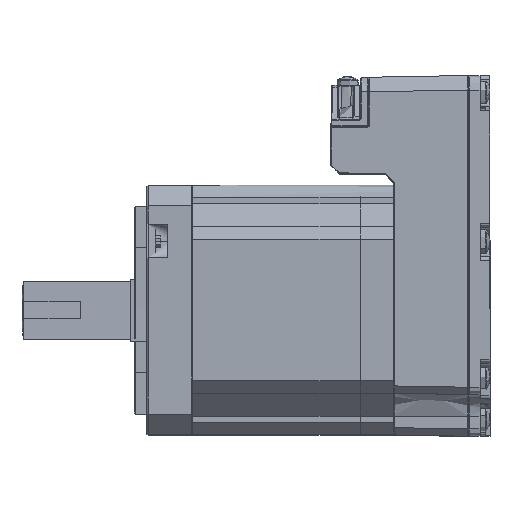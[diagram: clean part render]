
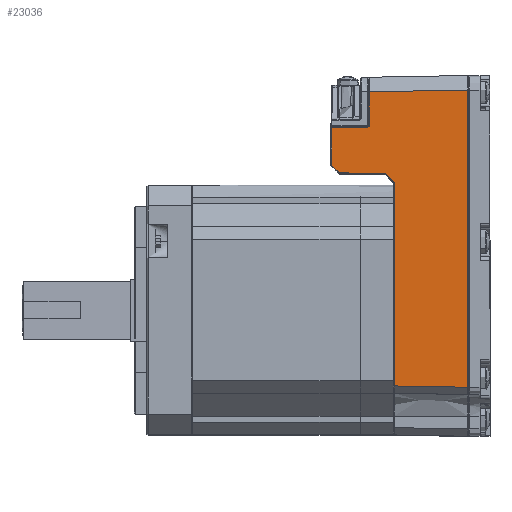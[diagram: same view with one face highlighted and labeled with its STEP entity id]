
A CAD part, top view. The second image highlights one B-rep face of the part: STEP entity #23036.
In plain terms, the highlighted planar face has unit normal (-0.018, 0, 1).
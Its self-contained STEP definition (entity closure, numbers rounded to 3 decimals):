
#308 = EDGE_CURVE ( 'NONE', #87987, #80663, #7296, .T. ) ;
#566 = CARTESIAN_POINT ( 'NONE',  ( 28.297, 31.806, 30.003 ) ) ;
#596 = VECTOR ( 'NONE', #15537, 1000. ) ;
#1350 = CARTESIAN_POINT ( 'NONE',  ( 13.297, 34.727, 29.742 ) ) ;
#5125 = EDGE_CURVE ( 'NONE', #45974, #22591, #72363, .T. ) ;
#6137 = CARTESIAN_POINT ( 'NONE',  ( 22.37, 52.401, 29.9 ) ) ;
#6688 = CARTESIAN_POINT ( 'NONE',  ( 28.297, -18.254, 30.003 ) ) ;
#6977 = CARTESIAN_POINT ( 'NONE',  ( 27.406, 32.712, 29.988 ) ) ;
#7296 = LINE ( 'NONE', #82429, #596 ) ;
#8558 = CARTESIAN_POINT ( 'NONE',  ( 45.998, 52.813, 30.312 ) ) ;
#8612 =( BOUNDED_CURVE ( )  B_SPLINE_CURVE ( 3, ( #44057, #6977, #566, #28882 ),
 .UNSPECIFIED., .F., .T. ) 
 B_SPLINE_CURVE_WITH_KNOTS ( ( 4, 4 ),
 ( 4.73, 6.283 ),
 .UNSPECIFIED. ) 
 CURVE ( )  GEOMETRIC_REPRESENTATION_ITEM ( )  RATIONAL_B_SPLINE_CURVE ( ( 1., 0.809, 0.809, 1. ) ) 
 REPRESENTATION_ITEM ( '' )  );
#9532 = CARTESIAN_POINT ( 'NONE',  ( 22.172, 43.8, 29.897 ) ) ;
#11960 = PLANE ( 'NONE',  #80563 ) ;
#12452 = CARTESIAN_POINT ( 'NONE',  ( 15.065, 32.927, 29.772 ) ) ;
#13320 = VERTEX_POINT ( 'NONE', #17992 ) ;
#15537 = DIRECTION ( 'NONE',  ( 1., -0.017, 0.017 ) ) ;
#16677 = CARTESIAN_POINT ( 'NONE',  ( 45.998, -18.563, 30.312 ) ) ;
#17992 = CARTESIAN_POINT ( 'NONE',  ( 13.297, 34.727, 29.742 ) ) ;
#19478 = ORIENTED_EDGE ( 'NONE', *, *, #31180, .T. ) ;
#19557 = EDGE_CURVE ( 'NONE', #93717, #91437, #70044, .T. ) ;
#22337 = EDGE_CURVE ( 'NONE', #94033, #93717, #61324, .T. ) ;
#22435 = ORIENTED_EDGE ( 'NONE', *, *, #87457, .T. ) ;
#22591 = VERTEX_POINT ( 'NONE', #50547 ) ;
#22621 = CARTESIAN_POINT ( 'NONE',  ( 26.135, 32.734, 29.966 ) ) ;
#22806 = LINE ( 'NONE', #1350, #52088 ) ;
#22890 = ORIENTED_EDGE ( 'NONE', *, *, #5125, .T. ) ;
#22958 = LINE ( 'NONE', #75267, #88386 ) ;
#23036 = ADVANCED_FACE ( 'NONE', ( #49073 ), #11960, .T. ) ;
#24159 = CARTESIAN_POINT ( 'NONE',  ( 21.997, 43.8, 29.893 ) ) ;
#24305 = EDGE_CURVE ( 'NONE', #86577, #94033, #22958, .T. ) ;
#25347 = CARTESIAN_POINT ( 'NONE',  ( 15.065, 32.927, 29.772 ) ) ;
#28111 = VECTOR ( 'NONE', #93753, 1000. ) ;
#28882 = CARTESIAN_POINT ( 'NONE',  ( 28.297, 30.535, 30.003 ) ) ;
#29161 = DIRECTION ( 'NONE',  ( 1., -0.017, 0.017 ) ) ;
#30104 = LINE ( 'NONE', #74132, #44806 ) ;
#30266 = DIRECTION ( 'NONE',  ( 0., 1., 0. ) ) ;
#30605 = DIRECTION ( 'NONE',  ( 0., -1., 0. ) ) ;
#31052 = EDGE_CURVE ( 'NONE', #13320, #87987, #86692, .T. ) ;
#31180 = EDGE_CURVE ( 'NONE', #33949, #86577, #30104, .T. ) ;
#31449 = DIRECTION ( 'NONE',  ( -0.009, -1., 0. ) ) ;
#31470 = CARTESIAN_POINT ( 'NONE',  ( 22.296, 43.923, 29.899 ) ) ;
#32350 = EDGE_CURVE ( 'NONE', #91437, #45974, #56906, .T. ) ;
#32972 = ORIENTED_EDGE ( 'NONE', *, *, #22337, .T. ) ;
#33949 = VERTEX_POINT ( 'NONE', #6688 ) ;
#35777 = ORIENTED_EDGE ( 'NONE', *, *, #60554, .T. ) ;
#39380 = CARTESIAN_POINT ( 'NONE',  ( 27.184, 52.485, 29.984 ) ) ;
#44057 = CARTESIAN_POINT ( 'NONE',  ( 26.135, 32.734, 29.966 ) ) ;
#44806 = VECTOR ( 'NONE', #29161, 1000. ) ;
#45974 = VERTEX_POINT ( 'NONE', #63456 ) ;
#46884 = VERTEX_POINT ( 'NONE', #50676 ) ;
#47716 = EDGE_LOOP ( 'NONE', ( #19478, #86290, #32972, #75866, #56561, #22890, #82305, #66424, #72226, #35777, #22435 ) ) ;
#49073 = FACE_OUTER_BOUND ( 'NONE', #47716, .T. ) ;
#49363 = EDGE_CURVE ( 'NONE', #22591, #13320, #22806, .T. ) ;
#50547 = CARTESIAN_POINT ( 'NONE',  ( 13.297, 43.8, 29.742 ) ) ;
#50676 = CARTESIAN_POINT ( 'NONE',  ( 28.297, 30.535, 30.003 ) ) ;
#52088 = VECTOR ( 'NONE', #30605, 1000. ) ;
#53214 = CARTESIAN_POINT ( 'NONE',  ( 13.297, 33.687, 29.742 ) ) ;
#53946 = VECTOR ( 'NONE', #54516, 1000. ) ;
#54516 = DIRECTION ( 'NONE',  ( -1., -0.017, -0.017 ) ) ;
#56561 = ORIENTED_EDGE ( 'NONE', *, *, #32350, .T. ) ;
#56779 = DIRECTION ( 'NONE',  ( -1., 0., -0.017 ) ) ;
#56906 =( BOUNDED_CURVE ( )  B_SPLINE_CURVE ( 3, ( #91040, #31470, #9532, #24159 ),
 .UNSPECIFIED., .F., .F. ) 
 B_SPLINE_CURVE_WITH_KNOTS ( ( 4, 4 ),
 ( 0.009, 1.571 ),
 .UNSPECIFIED. ) 
 CURVE ( )  GEOMETRIC_REPRESENTATION_ITEM ( )  RATIONAL_B_SPLINE_CURVE ( ( 1., 0.807, 0.807, 1. ) ) 
 REPRESENTATION_ITEM ( '' )  );
#60554 = EDGE_CURVE ( 'NONE', #80663, #46884, #8612, .T. ) ;
#61324 = LINE ( 'NONE', #39380, #53946 ) ;
#62689 = CARTESIAN_POINT ( 'NONE',  ( 22.297, 44.097, 29.899 ) ) ;
#63456 = CARTESIAN_POINT ( 'NONE',  ( 21.997, 43.8, 29.893 ) ) ;
#66424 = ORIENTED_EDGE ( 'NONE', *, *, #31052, .T. ) ;
#69420 = CARTESIAN_POINT ( 'NONE',  ( 28.297, 0., 30.003 ) ) ;
#70044 = LINE ( 'NONE', #62689, #77503 ) ;
#71361 = LINE ( 'NONE', #69420, #28111 ) ;
#72226 = ORIENTED_EDGE ( 'NONE', *, *, #308, .T. ) ;
#72363 = LINE ( 'NONE', #85574, #74553 ) ;
#73937 = DIRECTION ( 'NONE',  ( 1., 0., 0.017 ) ) ;
#74132 = CARTESIAN_POINT ( 'NONE',  ( 27.782, -18.245, 29.994 ) ) ;
#74553 = VECTOR ( 'NONE', #56779, 1000. ) ;
#75267 = CARTESIAN_POINT ( 'NONE',  ( 45.998, 52.815, 30.312 ) ) ;
#75669 = CARTESIAN_POINT ( 'NONE',  ( 14.025, 32.946, 29.754 ) ) ;
#75866 = ORIENTED_EDGE ( 'NONE', *, *, #19557, .T. ) ;
#77503 = VECTOR ( 'NONE', #31449, 1000. ) ;
#78704 = CARTESIAN_POINT ( 'NONE',  ( 22.297, 44.097, 29.899 ) ) ;
#80563 = AXIS2_PLACEMENT_3D ( 'NONE', #84725, #94856, #73937 ) ;
#80663 = VERTEX_POINT ( 'NONE', #22621 ) ;
#82305 = ORIENTED_EDGE ( 'NONE', *, *, #49363, .T. ) ;
#82429 = CARTESIAN_POINT ( 'NONE',  ( 28.67, 32.69, 30.01 ) ) ;
#84725 = CARTESIAN_POINT ( 'NONE',  ( 28.1, 0., 30. ) ) ;
#85574 = CARTESIAN_POINT ( 'NONE',  ( 28.1, 43.8, 30. ) ) ;
#86290 = ORIENTED_EDGE ( 'NONE', *, *, #24305, .T. ) ;
#86577 = VERTEX_POINT ( 'NONE', #16677 ) ;
#86692 =( BOUNDED_CURVE ( )  B_SPLINE_CURVE ( 3, ( #92222, #53214, #75669, #25347 ),
 .UNSPECIFIED., .F., .T. ) 
 B_SPLINE_CURVE_WITH_KNOTS ( ( 4, 4 ),
 ( 3.142, 4.695 ),
 .UNSPECIFIED. ) 
 CURVE ( )  GEOMETRIC_REPRESENTATION_ITEM ( )  RATIONAL_B_SPLINE_CURVE ( ( 1., 0.809, 0.809, 1. ) ) 
 REPRESENTATION_ITEM ( '' )  );
#87457 = EDGE_CURVE ( 'NONE', #46884, #33949, #71361, .T. ) ;
#87987 = VERTEX_POINT ( 'NONE', #12452 ) ;
#88386 = VECTOR ( 'NONE', #30266, 1000. ) ;
#91040 = CARTESIAN_POINT ( 'NONE',  ( 22.297, 44.097, 29.899 ) ) ;
#91437 = VERTEX_POINT ( 'NONE', #78704 ) ;
#92222 = CARTESIAN_POINT ( 'NONE',  ( 13.297, 34.727, 29.742 ) ) ;
#93717 = VERTEX_POINT ( 'NONE', #6137 ) ;
#93753 = DIRECTION ( 'NONE',  ( 0., -1., 0. ) ) ;
#94033 = VERTEX_POINT ( 'NONE', #8558 ) ;
#94856 = DIRECTION ( 'NONE',  ( -0.017, 0., 1. ) ) ;
